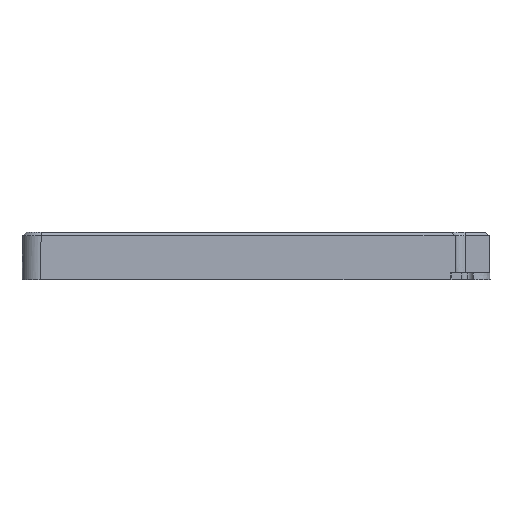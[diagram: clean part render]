
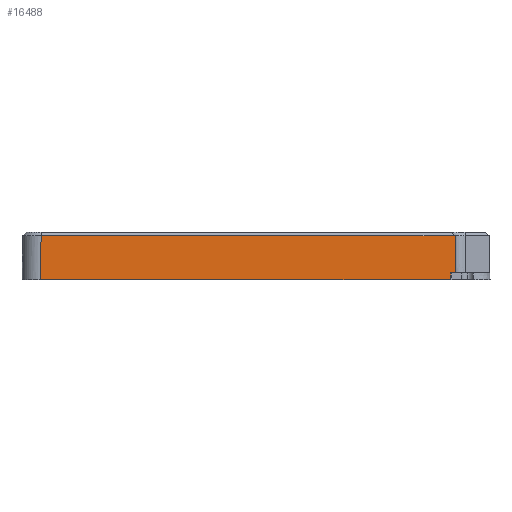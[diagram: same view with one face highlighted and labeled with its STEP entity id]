
A CAD part, top view. The second image highlights one B-rep face of the part: STEP entity #16488.
In plain terms, the highlighted planar face has unit normal (0, 0.018, 1).
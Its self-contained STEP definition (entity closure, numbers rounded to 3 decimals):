
#14852 = VERTEX_POINT('',#14853);
#14853 = CARTESIAN_POINT('',(54.267,9.8,
    24.579));
#14877 = VERTEX_POINT('',#14878);
#14878 = CARTESIAN_POINT('',(-58.58,9.8,
    24.579));
#14885 = EDGE_CURVE('',#14877,#14852,#14886,.T.);
#14886 = LINE('',#14887,#14888);
#14887 = CARTESIAN_POINT('',(-2.165,9.8,
    24.579));
#14888 = VECTOR('',#14889,1.);
#14889 = DIRECTION('',(1.,0.,0.));
#16469 = EDGE_CURVE('',#16470,#14852,#16472,.T.);
#16470 = VERTEX_POINT('',#16471);
#16471 = CARTESIAN_POINT('',(54.444,-0.3,24.755));
#16472 = LINE('',#16473,#16474);
#16473 = CARTESIAN_POINT('',(54.444,-0.3,24.755));
#16474 = VECTOR('',#16475,1.);
#16475 = DIRECTION('',(-0.017,1.,
    -0.017));
#16488 = ADVANCED_FACE('',(#16489),#16523,.T.);
#16489 = FACE_BOUND('',#16490,.T.);
#16490 = EDGE_LOOP('',(#16491,#16499,#16500,#16501,#16509,#16517));
#16491 = ORIENTED_EDGE('',*,*,#16492,.T.);
#16492 = EDGE_CURVE('',#16493,#16470,#16495,.T.);
#16493 = VERTEX_POINT('',#16494);
#16494 = CARTESIAN_POINT('',(53.047,-0.3,24.755));
#16495 = LINE('',#16496,#16497);
#16496 = CARTESIAN_POINT('',(-66.555,-0.3,24.755));
#16497 = VECTOR('',#16498,1.);
#16498 = DIRECTION('',(1.,0.,0.));
#16499 = ORIENTED_EDGE('',*,*,#16469,.T.);
#16500 = ORIENTED_EDGE('',*,*,#14885,.F.);
#16501 = ORIENTED_EDGE('',*,*,#16502,.T.);
#16502 = EDGE_CURVE('',#14877,#16503,#16505,.T.);
#16503 = VERTEX_POINT('',#16504);
#16504 = CARTESIAN_POINT('',(-58.789,-2.2,24.788));
#16505 = LINE('',#16506,#16507);
#16506 = CARTESIAN_POINT('',(-58.58,9.8,
    24.579));
#16507 = VECTOR('',#16508,1.);
#16508 = DIRECTION('',(-0.017,-1.,
    0.017));
#16509 = ORIENTED_EDGE('',*,*,#16510,.T.);
#16510 = EDGE_CURVE('',#16503,#16511,#16513,.T.);
#16511 = VERTEX_POINT('',#16512);
#16512 = CARTESIAN_POINT('',(52.948,-2.2,24.788));
#16513 = LINE('',#16514,#16515);
#16514 = CARTESIAN_POINT('',(-66.555,-2.2,24.788));
#16515 = VECTOR('',#16516,1.);
#16516 = DIRECTION('',(1.,0.,0.));
#16517 = ORIENTED_EDGE('',*,*,#16518,.T.);
#16518 = EDGE_CURVE('',#16511,#16493,#16519,.T.);
#16519 = LINE('',#16520,#16521);
#16520 = CARTESIAN_POINT('',(52.948,-2.2,24.788));
#16521 = VECTOR('',#16522,1.);
#16522 = DIRECTION('',(0.052,0.998,
    -0.017));
#16523 = PLANE('',#16524);
#16524 = AXIS2_PLACEMENT_3D('',#16525,#16526,#16527);
#16525 = CARTESIAN_POINT('',(-66.555,0.,24.75));
#16526 = DIRECTION('',(0.,0.017,1.));
#16527 = DIRECTION('',(0.,-1.,0.017));
